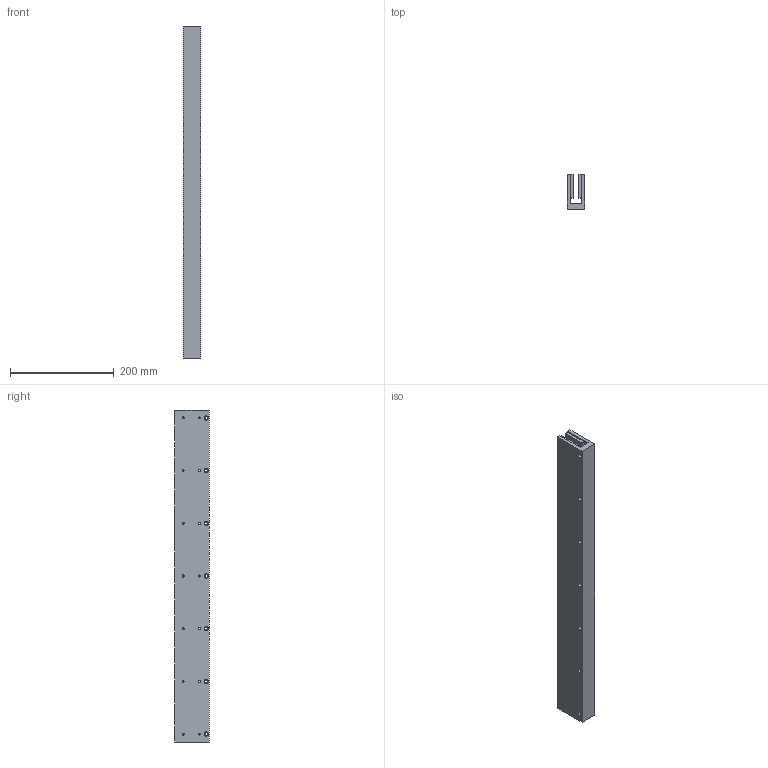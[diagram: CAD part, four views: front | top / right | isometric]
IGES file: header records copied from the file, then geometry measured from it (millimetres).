
Global section: file name: No Iges File Name specified; native system: Autodesk Inventor 2009; preprocessor: AutoDesk Inventor Iges Exporter R2009; author: je17857; date: 20091116.111512; units: inch
Bounding box: 34.29 x 67.31 x 640.08 mm (x, y, z)
Volume: 955972.4 mm3; surface area: 242583.4 mm2
Topology: 1 solids, 1 shells, 346 faces, 822 edges, 548 vertices
Faces by surface type: plane 234, bspline 112
